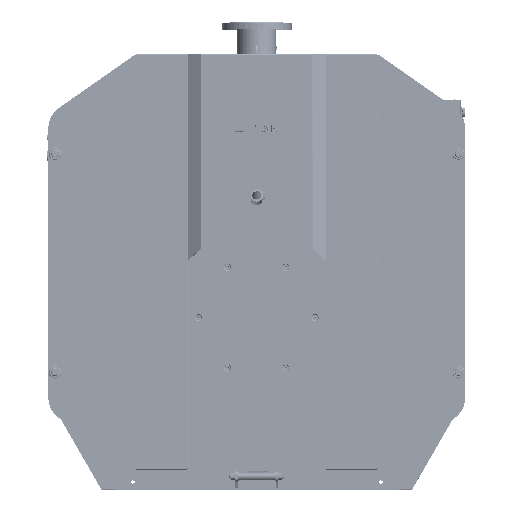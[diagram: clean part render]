
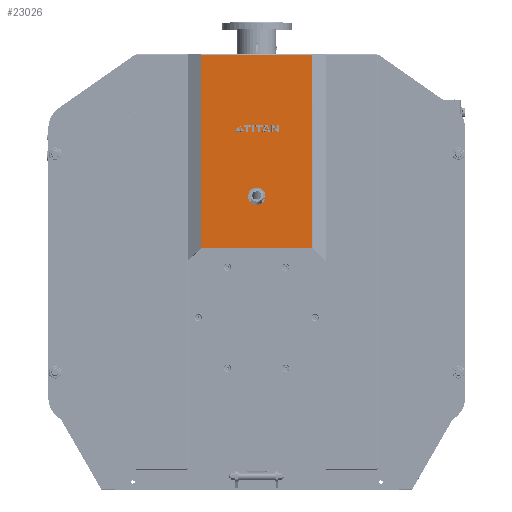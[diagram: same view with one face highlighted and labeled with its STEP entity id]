
A CAD part, top view. The second image highlights one B-rep face of the part: STEP entity #23026.
In plain terms, the highlighted planar face has unit normal (0, 0, 1) as drawn and (1, 0, 0) by its records, which use the part's own axes.
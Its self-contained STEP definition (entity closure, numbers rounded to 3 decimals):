
#23026=ADVANCED_FACE('',(#72887,#72889),#72891,.T.);
#72887=FACE_BOUND('',#72888,.T.);
#72888=EDGE_LOOP('',(#149499,#149500,#149501,#149502,#149503,#149504));
#72889=FACE_BOUND('',#72890,.T.);
#72890=EDGE_LOOP('',(#149505));
#72891=PLANE('',#72892);
#72892=AXIS2_PLACEMENT_3D('',#72893,#72894,#72895);
#72893=CARTESIAN_POINT('',(0.,-224.464,-415.));
#72894=DIRECTION('',(1.,0.,0.));
#72895=DIRECTION('',(0.,1.,0.));
#149499=ORIENTED_EDGE('',*,*,#187731,.T.);
#149500=ORIENTED_EDGE('',*,*,#187732,.T.);
#149501=ORIENTED_EDGE('',*,*,#187733,.T.);
#149502=ORIENTED_EDGE('',*,*,#187734,.F.);
#149503=ORIENTED_EDGE('',*,*,#187735,.T.);
#149504=ORIENTED_EDGE('',*,*,#187736,.T.);
#149505=ORIENTED_EDGE('',*,*,#187737,.T.);
#187731=EDGE_CURVE('',#211233,#211234,#211235,.F.);
#187732=EDGE_CURVE('',#211234,#211236,#211237,.T.);
#187733=EDGE_CURVE('',#211236,#211238,#211239,.F.);
#187734=EDGE_CURVE('',#211240,#211238,#211241,.T.);
#187735=EDGE_CURVE('',#211240,#211242,#211243,.F.);
#187736=EDGE_CURVE('',#211242,#211233,#211244,.T.);
#187737=EDGE_CURVE('',#211245,#211245,#211246,.F.);
#211233=VERTEX_POINT('',#265258);
#211234=VERTEX_POINT('',#265259);
#211235=CIRCLE('',#265260,1.439);
#211236=VERTEX_POINT('',#265264);
#211237=LINE('',#265265,#265266);
#211238=VERTEX_POINT('',#265268);
#211239=CIRCLE('',#265269,1.439);
#211240=VERTEX_POINT('',#265273);
#211241=LINE('',#265274,#265275);
#211242=VERTEX_POINT('',#265277);
#211243=LINE('',#265278,#265279);
#211244=LINE('',#265281,#265282);
#211245=VERTEX_POINT('',#265284);
#211246=CIRCLE('',#265285,35.);
#265258=CARTESIAN_POINT('',(0.,224.464,414.768));
#265259=CARTESIAN_POINT('',(0.,224.173,415.));
#265260=AXIS2_PLACEMENT_3D('',#265261,#265262,#265263);
#265261=CARTESIAN_POINT('',(0.,225.208,416.));
#265262=DIRECTION('',(1.,0.,0.));
#265263=DIRECTION('',(0.,-0.719,-0.695));
#265264=CARTESIAN_POINT('',(0.,-224.173,415.));
#265265=CARTESIAN_POINT('',(0.,224.173,415.));
#265266=VECTOR('',#265267,1.);
#265267=DIRECTION('',(0.,-1.,0.));
#265268=CARTESIAN_POINT('',(0.,-224.464,414.768));
#265269=AXIS2_PLACEMENT_3D('',#265270,#265271,#265272);
#265270=CARTESIAN_POINT('',(0.,-225.208,416.));
#265271=DIRECTION('',(1.,0.,0.));
#265272=DIRECTION('',(0.,0.517,-0.856));
#265273=CARTESIAN_POINT('',(0.,-224.464,-365.));
#265274=CARTESIAN_POINT('',(0.,-224.464,-365.));
#265275=VECTOR('',#265276,1.);
#265276=DIRECTION('',(0.,0.,1.));
#265277=CARTESIAN_POINT('',(0.,224.464,-365.));
#265278=CARTESIAN_POINT('',(0.,224.464,-365.));
#265279=VECTOR('',#265280,1.);
#265280=DIRECTION('',(0.,-1.,0.));
#265281=CARTESIAN_POINT('',(0.,224.464,-365.));
#265282=VECTOR('',#265283,1.);
#265283=DIRECTION('',(0.,0.,1.));
#265284=CARTESIAN_POINT('',(0.,35.,-155.));
#265285=AXIS2_PLACEMENT_3D('',#265286,#265287,#265288);
#265286=CARTESIAN_POINT('',(0.,0.,-155.));
#265287=DIRECTION('',(1.,0.,0.));
#265288=DIRECTION('',(0.,1.,0.));
